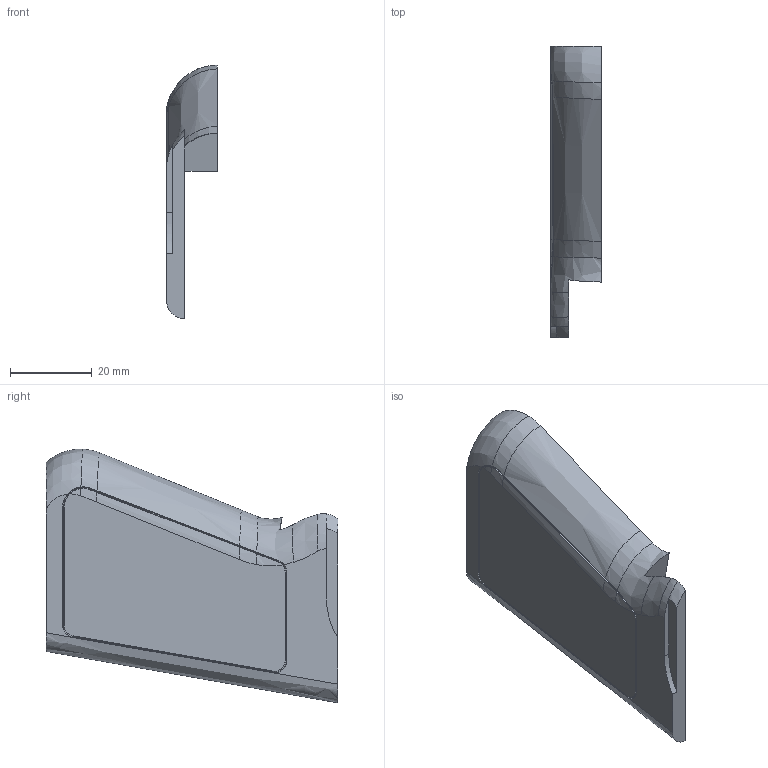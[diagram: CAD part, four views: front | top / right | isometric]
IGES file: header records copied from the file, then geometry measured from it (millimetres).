
Start section:  PTC IGES file: C:\Documents and Settings\audibk\personal\guns\walther\W alther_PPK\iges\griffschale_r.igs
Global section: file name: C:\Documents and Settings\audibk\personal\guns\walther\Walther_PPK\iges\griffschale_r.igs; native system: Pro/ENGINEER by Parametric Technology Corporation; preprocessor: 2002180; author: audibk; organization: Unknown; date: 030409.105324; units: millimetre
Bounding box: 12.5 x 71.5 x 62.23 mm (x, y, z)
Volume: 18391.6 mm3; surface area: 8307.9 mm2
Topology: 1 solids, 1 shells, 62 faces, 160 edges, 100 vertices
Faces by surface type: bspline 62
